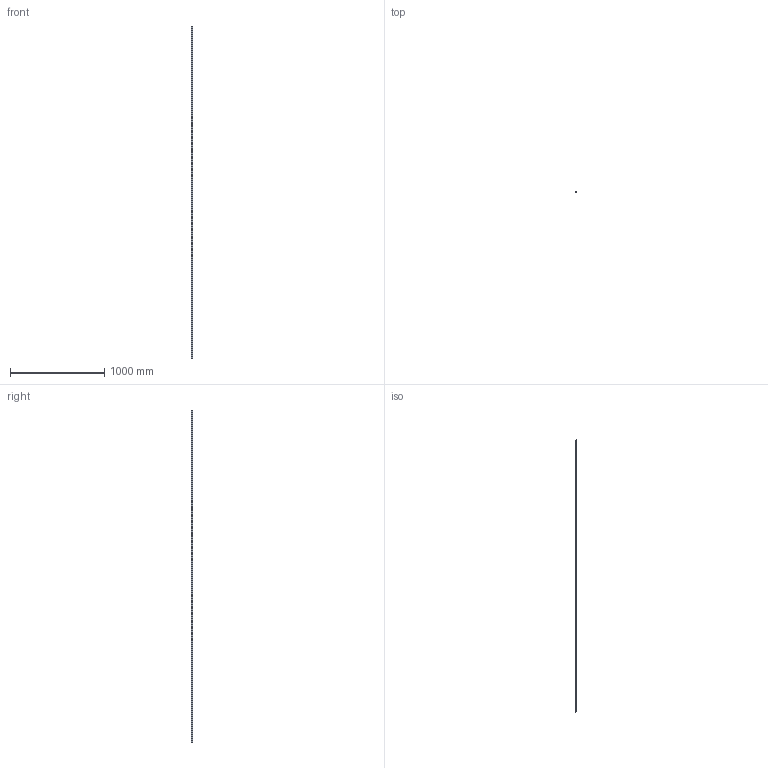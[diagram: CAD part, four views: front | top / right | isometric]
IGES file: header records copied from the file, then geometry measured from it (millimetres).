
Start section: SolidWorks IGES file using analytic representation for surfaces
Global section: file name: C:\Users\IanO\Desktop\L1016_v2\L1016.BL15_v2\L1016.BL15_v2_20190611_IGES\L1016.BL15-3520.igs; native system: SolidWorks 2017; preprocessor: SolidWorks 2017; author: IanO; date: 190612.123644; units: millimetre
Bounding box: 15 x 13 x 3520 mm (x, y, z)
Surface area: 214901.2 mm2 (no closed solid volume)
Topology: 0 solids, 0 shells, 321 faces, 8648 edges, 8648 vertices
Faces by surface type: revolution 240, bspline 81
